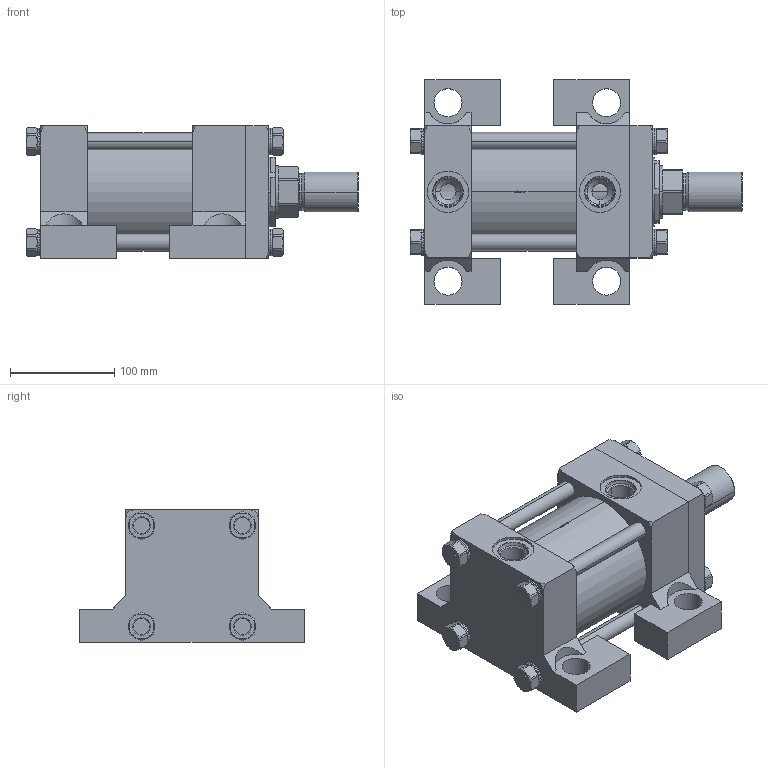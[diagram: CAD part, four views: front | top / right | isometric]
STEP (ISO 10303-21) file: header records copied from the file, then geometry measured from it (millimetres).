
FILE_DESCRIPTION (( 'STEP AP214' ), '1' );
FILE_NAME ('4.00C2HHNAT134A2.000.step', '2026-03-26T21:12:45', ( '' ), ( '' ), 'SwSTEP 2.0', 'SolidWorks 2023', '' );
FILE_SCHEMA (( 'AUTOMOTIVE_DESIGN' ));
Length unit declared in the file: inch
Products named in the file (1): 4.00C2HHNAT134A2.000
Bounding box: 319.09 x 215.9 x 127 mm (x, y, z)
Volume: 3095195.3 mm3; surface area: 496109.4 mm2
Topology: 44 solids, 44 shells, 1216 faces, 3136 edges, 2016 vertices
Faces by surface type: plane 802, cylinder 221, cone 163, bspline 22, torus 8
Entity records: 54904 total; most frequent: CARTESIAN_POINT 10679, ORIENTED_EDGE 6272, DIRECTION 5198, EDGE_CURVE 3136, VERTEX_POINT 2016, AXIS2_PLACEMENT_3D 1767, VECTOR 1664, LINE 1664
